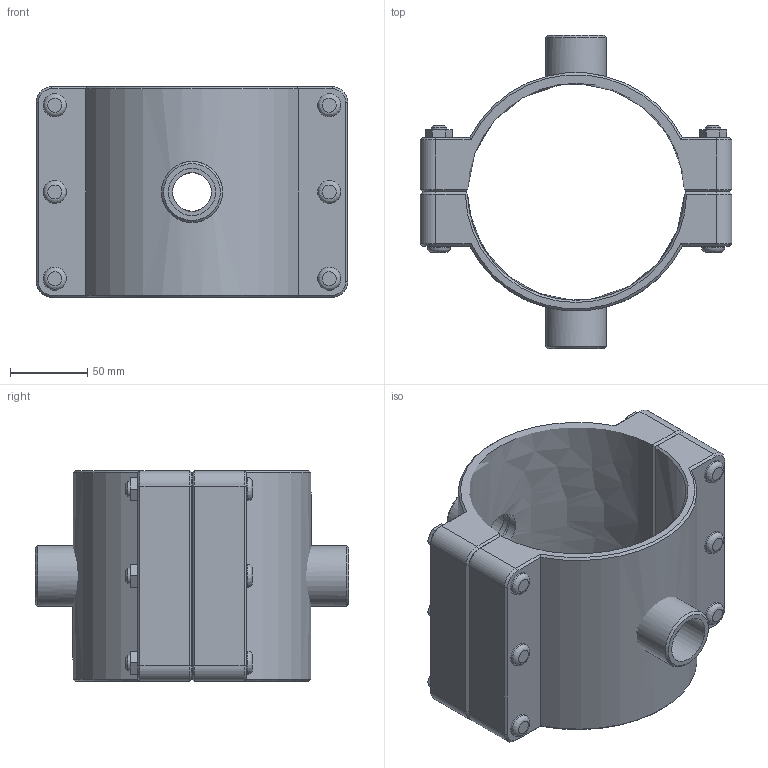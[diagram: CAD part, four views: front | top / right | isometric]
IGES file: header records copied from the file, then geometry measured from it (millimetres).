
Global section: file name: 161760140010_161860140010.ipt; native system: Autodesk Inventor 2015; preprocessor: unknown; author: KIM; date: 20170618.093757; units: millimetre
Bounding box: 201 x 202 x 136 mm (x, y, z)
Volume: 961477.7 mm3; surface area: 182079.4 mm2
Topology: 3 solids, 3 shells, 179 faces, 416 edges, 265 vertices
Faces by surface type: plane 102, cylinder 30, cone 28, revolution 19
Full cylindrical faces by diameter (mm): 10 x6, 15 x12, 39.378 x2
